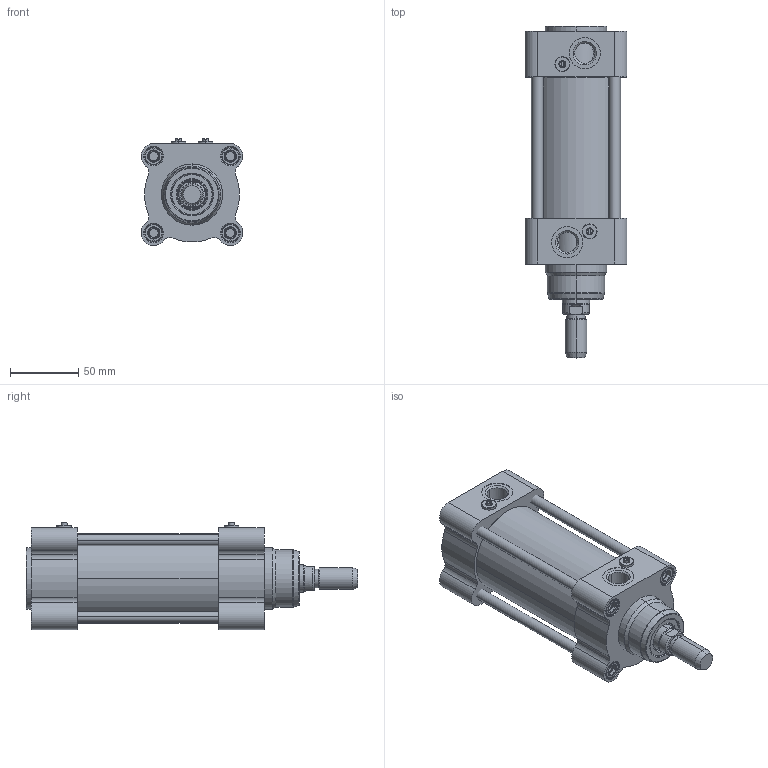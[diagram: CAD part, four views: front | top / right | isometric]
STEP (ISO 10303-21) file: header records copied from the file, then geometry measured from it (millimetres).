
FILE_DESCRIPTION (( 'STEP AP203' ), '1' );
FILE_NAME ('CTMI63-50.STEP', '2020-03-26T19:27:35', ( '' ), ( '' ), 'SwSTEP 2.0', 'SolidWorks 2019', '' );
FILE_SCHEMA (( 'CONFIG_CONTROL_DESIGN' ));
Length unit declared in the file: millimetre
Products named in the file (1): CTMI63-50
Bounding box: 74.97 x 244 x 78.68 mm (x, y, z)
Surface area: 141572.3 mm2 (no closed solid volume)
Topology: 0 solids, 24 shells, 731 faces, 1692 edges, 1048 vertices
Faces by surface type: cone 229, cylinder 203, plane 195, torus 88, bspline 16
Entity records: 23937 total; most frequent: CARTESIAN_POINT 7595, DIRECTION 3498, ORIENTED_EDGE 3336, EDGE_CURVE 1692, AXIS2_PLACEMENT_3D 1428, VERTEX_POINT 1048, EDGE_LOOP 804, FACE_OUTER_BOUND 731
